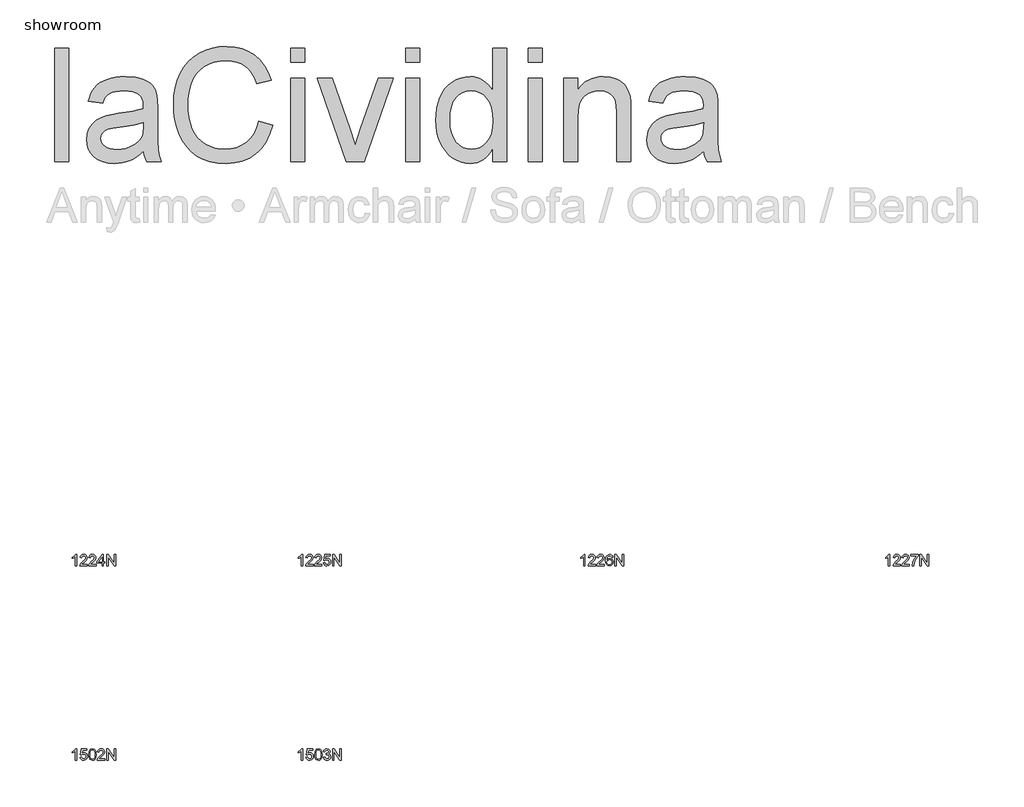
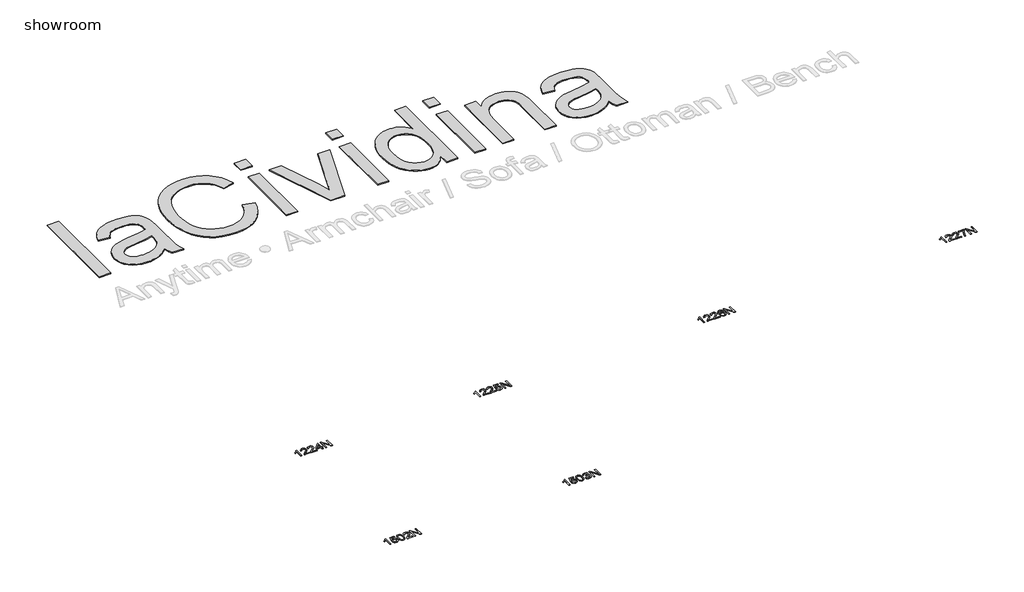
# One storey, part 1 of 2: 7 proxies.
"""IFC4 building model written with IfcOpenShell, lengths in millimetres."""

from ifc_helpers import new_model, si_unit, origin, origin_with_axes, place, context, project, spatial, polyline, outline, extrude, element, save

model = new_model("IFC4")

# Units and contexts
model_context = context("Model", 3, world=origin())
ifc_project = project(units=[si_unit("LENGTHUNIT", "METRE", prefix="MILLI")], contexts=[model_context])

# Site, building, storey
site = spatial("IfcSite", under=ifc_project)
building = spatial("IfcBuilding", under=site)
storey = spatial("IfcBuildingStorey", under=building, Name="showroom", Elevation=0.0)

# Proxies
placement = place(None, origin())
element("IfcBuildingElementProxy", 1, Name="1000mm Arial", ObjectType="1000mm Arial", at=placement, inside=storey, context=model_context, shape_type="SweptSolid", body=[
    extrude(outline(polyline([(-1952.8965336, 4695.1020807), (-1952.8965336, 5699.6651822), (-1827.326146, 5699.6651822), (-1827.326146, 4695.1020807), (-1952.8965336, 4695.1020807)])), origin_with_axes(), (0.0, 0.0, 1.0), 10.0),
    extrude(outline(polyline([(-1168.0816106, 4789.2798714), (-1197.8570596, 4761.3361682), (-1228.0770326, 4737.8377058), (-1258.7415298, 4718.7844841), (-1289.850551, 4704.1765032), (-1321.7566499, 4693.3393128), (-1354.81238, 4685.5984625), (-1389.0177413, 4680.9539523), (-1424.3727339, 4679.4057822), (-1480.283133, 4683.1305874), (-1529.311073, 4694.305003), (-1571.4565541, 4712.929029), (-1606.7195762, 4739.0026654), (-1634.5636447, 4770.8704433), (-1654.4522651, 4806.8768935), (-1666.3854373, 4847.0220163), (-1670.3631613, 4891.3058114), (-1664.3544221, 4943.3611138), (-1656.843498, 4967.5953402), (-1646.3282043, 4990.6339501), (-1618.5224569, 5031.1009696), (-1583.1751285, 5062.7388212), (-1541.6351199, 5086.6511509), (-1495.2513316, 5103.9416046), (-1450.0631599, 5113.5678502), (-1386.6035157, 5122.8262137), (-1258.2126994, 5142.6918415), (-1208.6406006, 5153.9122423), (-1168.8173746, 5165.9910345), (-1168.0816106, 5193.9500661), (-1170.2429173, 5224.3923012), (-1176.7268375, 5249.9907567), (-1187.5333711, 5270.7454326), (-1202.6625181, 5286.6563289), (-1228.8127966, 5302.5365684), (-1260.665246, 5313.8795966), (-1298.2198664, 5320.6854135), (-1341.4766577, 5322.9540191), (-1381.6984225, 5321.4441701), (-1416.27933, 5316.914623), (-1445.2193803, 5309.3653779), (-1468.5185733, 5298.7964348), (-1487.6637655, 5284.3800591), (-1504.1418132, 5265.2885164), (-1517.9527164, 5241.5218066), (-1529.0964752, 5213.0799299), (-1654.6668629, 5228.7762283), (-1645.1095952, 5264.9512912), (-1632.8698547, 5297.4475341), (-1617.9476412, 5326.2649571), (-1600.3429549, 5351.4035601), (-1579.2970391, 5373.3691809), (-1554.0511372, 5392.6676572), (-1524.6052492, 5409.2989891), (-1490.959375, 5423.2631765), (-1453.7956293, 5434.3149647), (-1413.7961265, 5442.2090992), (-1370.9608667, 5446.9455799), (-1325.2898499, 5448.5244068), (-1240.4010795, 5442.9448632), (-1204.5555776, 5435.9704337), (-1173.1093312, 5426.2062324), (-1122.3722727, 5401.0369726), (-1102.8208775, 5386.3140286), (-1087.1475717, 5370.1655418), (-1063.787065, 5331.9977848), (-1048.6425895, 5284.9395463), (-1044.0440646, 5241.5294708), (-1042.5112229, 5175.065457), (-1042.5112229, 5018.8382364), (-1040.9170676, 4882.752555), (-1036.1346017, 4800.6842133), (-1026.6922971, 4746.7588442), (-1011.118626, 4695.1020807), (-1136.6890137, 4695.1020807), (-1156.7998961, 4738.7574108), (-1168.0816106, 4789.2798714)]), holes=[polyline([(-1168.0816106, 5040.4206468), (-1252.4492148, 5019.5126868), (-1370.6619626, 5001.9156646), (-1435.8077326, 4992.2894191), (-1478.6966419, 4981.5595276), (-1506.8089577, 4967.6413254), (-1527.6249472, 4948.450148), (-1540.500817, 4925.4575233), (-1544.7927737, 4900.1349793), (-1542.4551901, 4880.6219052), (-1535.4424396, 4862.7949568), (-1523.7545221, 4846.6541343), (-1507.3914375, 4832.1994375), (-1486.50647, 4820.2892579), (-1461.2529039, 4811.7819868), (-1431.6307391, 4806.6776241), (-1397.6399756, 4804.9761699), (-1362.9364407, 4806.8539009), (-1330.1949431, 4812.487094), (-1299.4154829, 4821.8757491), (-1270.5980599, 4835.0198662), (-1244.6010656, 4850.8311278), (-1222.2828912, 4868.2212162), (-1203.6435368, 4887.1901316), (-1188.6830023, 4907.7378739), (-1179.9917902, 4926.1319736), (-1173.7837815, 4948.450148), (-1168.8173746, 5004.8587206), (-1168.0816106, 5040.4206468)])]), origin_with_axes(), (0.0, 0.0, 1.0), 10.0),
    extrude(outline(polyline([(-147.8222106, 5052.1928707), (-22.2518229, 5019.8192551), (-47.099186, 4941.7286374), (-80.1932372, 4873.4941915), (-121.5339764, 4815.1159174), (-145.296854, 4789.6228448), (-171.1214037, 4766.5938151), (-227.8365446, 4728.4490507), (-290.5604248, 4701.2027904), (-359.2930442, 4684.8550343), (-434.0344029, 4679.4057822), (-510.6075073, 4683.5291262), (-579.6850161, 4695.8991583), (-641.2669293, 4716.5158785), (-695.3532468, 4745.3792867), (-742.6873968, 4782.0601873), (-784.0128076, 4826.1293846), (-819.3294792, 4877.5868787), (-848.6374114, 4936.4326695), (-871.6530288, 5000.1222399), (-888.0927554, 5066.1110728), (-897.9565914, 5134.3991682), (-901.2445368, 5204.986526), (-897.5273958, 5280.7242317), (-886.3759728, 5351.4648737), (-867.7902678, 5417.208452), (-841.7702809, 5477.9549664), (-808.8984918, 5532.7004058), (-769.7573803, 5580.4407589), (-724.3469465, 5621.1760257), (-672.6671904, 5654.9062061), (-616.4732157, 5681.3553887), (-557.5201259, 5700.247662), (-495.8079212, 5711.583026), (-431.3366016, 5715.3614806), (-359.5153062, 5710.4717158), (-293.6567649, 5695.8024212), (-233.7609776, 5671.353597), (-179.8279442, 5637.125243), (-132.746713, 5594.0217359), (-93.4063322, 5542.9474522), (-61.8068016, 5483.902392), (-37.9481214, 5416.8865552), (-163.5185091, 5386.9654863), (-183.2921663, 5436.3459799), (-207.0512119, 5478.5374462), (-234.7956457, 5513.5398852), (-266.5254677, 5541.3532969), (-302.4246191, 5562.5448327), (-342.6770407, 5577.6816439), (-387.2827327, 5586.7637307), (-436.2416949, 5589.7910929), (-492.5736254, 5586.4341697), (-544.0924331, 5576.3634001), (-590.7981181, 5559.5787841), (-632.6906803, 5536.0803216), (-669.2412893, 5506.9256735), (-699.9211149, 5473.1725005), (-724.7301569, 5434.8208025), (-743.6684155, 5391.8705795), (-757.6709239, 5346.2685406), (-767.6727157, 5299.9613944), (-773.6737907, 5252.9491411), (-775.6741491, 5205.2317807), (-773.3059087, 5145.2670154), (-766.2011877, 5089.2263248), (-754.359986, 5037.1097089), (-737.7823036, 4988.9171675), (-716.1998932, 4945.6067268), (-689.3445075, 4908.1364127), (-657.2161466, 4876.5062253), (-619.8148104, 4850.7161646), (-578.9569164, 4830.7049169), (-536.4588817, 4816.4111686), (-492.3207065, 4807.8349196), (-446.5423907, 4804.9761699), (-391.9502355, 4808.8695877), (-341.7266789, 4820.549841), (-295.8717211, 4840.0169299), (-254.3853619, 4867.2708544), (-218.2486201, 4902.1889871), (-188.4425143, 4944.6487007), (-164.9670445, 4994.6499952), (-147.8222106, 5052.1928707)])), origin_with_axes(), (0.0, 0.0, 1.0), 10.0),
    extrude(outline(polyline([(134.7111617, 4695.1020807), (134.7111617, 5432.8281083), (260.2815493, 5432.8281083), (260.2815493, 4695.1020807), (134.7111617, 4695.1020807)])), origin_with_axes(), (0.0, 0.0, 1.0), 10.0),
    extrude(outline(polyline([(134.7111617, 5574.0947945), (134.7111617, 5699.6651822), (260.2815493, 5699.6651822), (260.2815493, 5574.0947945), (134.7111617, 5574.0947945)])), origin_with_axes(), (0.0, 0.0, 1.0), 10.0),
    extrude(outline(polyline([(629.6350725, 4695.1020807), (370.1556386, 5432.8281083), (503.0836662, 5432.8281083), (660.2919054, 4990.8792048), (707.6260555, 4842.2548787), (753.9791869, 4982.5405462), (912.1684448, 5432.8281083), (1045.0964724, 5432.8281083), (788.8053491, 4695.1020807), (629.6350725, 4695.1020807)])), origin_with_axes(), (0.0, 0.0, 1.0), 10.0),
    extrude(outline(polyline([(1154.9705616, 4695.1020807), (1154.9705616, 5432.8281083), (1280.5409493, 5432.8281083), (1280.5409493, 4695.1020807), (1154.9705616, 4695.1020807)])), origin_with_axes(), (0.0, 0.0, 1.0), 10.0),
    extrude(outline(polyline([(1154.9705616, 5574.0947945), (1154.9705616, 5699.6651822), (1280.5409493, 5699.6651822), (1280.5409493, 5574.0947945), (1154.9705616, 5574.0947945)])), origin_with_axes(), (0.0, 0.0, 1.0), 10.0),
    extrude(outline(polyline([(1924.0891862, 4695.1020807), (1924.0891862, 4813.5600831), (1906.2967268, 4782.1176688), (1886.5192374, 4754.8675765), (1864.7567182, 4731.809806), (1841.009169, 4712.9443574), (1815.2765898, 4698.2712308), (1787.5589807, 4687.790426), (1757.8563417, 4681.5019432), (1726.1686728, 4679.4057822), (1684.7206347, 4682.4408087), (1644.9893792, 4691.5458881), (1606.9749064, 4706.7210204), (1570.6772162, 4727.9662056), (1537.2306114, 4754.6453144), (1507.769395, 4786.1222176), (1482.2935668, 4822.3969152), (1460.8031269, 4863.4694071), (1443.7425994, 4908.5579442), (1431.5565083, 4956.8807771), (1424.2448537, 5008.4379059), (1421.8076355, 5063.2293305), (1424.0532485, 5117.0167439), (1430.7900875, 5168.2596401), (1442.0181526, 5216.9580192), (1457.7374436, 5263.1118812), (1477.9402965, 5305.3723254), (1502.6190471, 5342.3904512), (1531.7736952, 5374.1662585), (1565.4042409, 5400.6997474), (1602.322732, 5421.6230359), (1641.3412161, 5436.568242), (1682.4596932, 5445.5353656), (1725.6781635, 5448.5244068), (1757.2853582, 5446.3860927), (1787.1144567, 5439.9711504), (1815.1654588, 5429.2795799), (1841.4383646, 5414.3113812), (1865.6419342, 5395.9249457), (1887.4849277, 5374.9786646), (1906.967345, 5351.4725379), (1924.0891862, 5325.4065657), (1924.0891862, 5699.6651822), (2049.6595739, 5699.6651822), (2049.6595739, 4695.1020807), (1924.0891862, 4695.1020807)]), holes=[polyline([(1547.3780231, 5063.7198398), (1550.9188873, 5002.8277054), (1561.54148, 4950.1362738), (1579.245801, 4905.645545), (1604.0318504, 4869.3555191), (1633.6310226, 4841.1895538), (1665.7747119, 4821.0710072), (1700.4629184, 4808.9998792), (1737.695642, 4804.9761699), (1775.1046424, 4808.8159382), (1809.5859152, 4820.3352432), (1841.1394605, 4839.5340848), (1869.7652782, 4866.4124631), (1893.531988, 4901.1849758), (1910.5082092, 4944.0662209), (1920.693942, 4995.0561983), (1924.0891862, 5054.154908), (1920.6326283, 5118.9481244), (1910.2629545, 5174.5136341), (1892.980165, 5220.851437), (1868.7842596, 5257.9615333), (1839.5299768, 5286.3957458), (1807.0720549, 5306.7058977), (1771.410494, 5318.8919887), (1732.545294, 5322.9540191), (1694.5768065, 5319.0529371), (1659.8886, 5307.3496911), (1628.4806747, 5287.8442812), (1600.3530304, 5260.5367073), (1577.1764647, 5224.8291611), (1560.621775, 5180.1238345), (1550.6889611, 5126.4207274), (1547.3780231, 5063.7198398)])]), origin_with_axes(), (0.0, 0.0, 1.0), 10.0),
    extrude(outline(polyline([(2238.0151554, 4695.1020807), (2238.0151554, 5432.8281083), (2363.5855431, 5432.8281083), (2363.5855431, 4695.1020807), (2238.0151554, 4695.1020807)])), origin_with_axes(), (0.0, 0.0, 1.0), 10.0),
    extrude(outline(polyline([(2238.0151554, 5574.0947945), (2238.0151554, 5699.6651822), (2363.5855431, 5699.6651822), (2363.5855431, 5574.0947945), (2238.0151554, 5574.0947945)])), origin_with_axes(), (0.0, 0.0, 1.0), 10.0),
    extrude(outline(polyline([(2551.9411246, 4695.1020807), (2551.9411246, 5432.8281083), (2677.5115123, 5432.8281083), (2677.5115123, 5329.8211497), (2698.2278672, 5357.6422256), (2721.1361856, 5381.7538247), (2746.2364675, 5402.155947), (2773.5287131, 5418.8485925), (2803.0129221, 5431.8317613), (2834.6890948, 5441.1054532), (2868.5572309, 5446.6696684), (2904.6173307, 5448.5244068), (2966.5134764, 5442.5463244), (2995.5071761, 5435.0737213), (3023.1979605, 5424.6120771), (3048.5358329, 5411.7208789), (3070.4707968, 5396.9596138), (3089.0028523, 5380.3282819), (3104.1319994, 5361.8268833), (3126.9713399, 5319.305856), (3141.7785902, 5269.4885025), (3146.7449972, 5221.8477841), (3148.4004661, 5148.0874441), (3148.4004661, 4695.1020807), (3022.8300785, 4695.1020807), (3022.8300785, 5131.1648723), (3019.2125722, 5196.0960444), (3008.3600533, 5242.2652348), (2999.7378191, 5259.7319654), (2988.3411414, 5275.3439576), (2974.1700204, 5289.1012113), (2957.224456, 5301.0037267), (2917.3399163, 5317.466446), (2871.0174418, 5322.9540191), (2832.8880058, 5319.8730074), (2797.4716996, 5310.6299723), (2764.7685231, 5295.2249137), (2734.7784762, 5273.6578318), (2709.7241795, 5243.4761797), (2691.8282533, 5202.227411), (2681.0906976, 5149.9115256), (2677.5115123, 5086.5285235), (2677.5115123, 4695.1020807), (2551.9411246, 4695.1020807)])), origin_with_axes(), (0.0, 0.0, 1.0), 10.0),
    extrude(outline(polyline([(3791.948703, 4789.2798714), (3762.1732541, 4761.3361682), (3731.953281, 4737.8377058), (3701.2887839, 4718.7844841), (3670.1797626, 4704.1765032), (3638.2736638, 4693.3393128), (3605.2179337, 4685.5984625), (3571.0125723, 4680.9539523), (3535.6575797, 4679.4057822), (3479.7471807, 4683.1305874), (3430.7192406, 4694.305003), (3388.5737595, 4712.929029), (3353.3107375, 4739.0026654), (3325.466669, 4770.8704433), (3305.5780486, 4806.8768935), (3293.6448764, 4847.0220163), (3289.6671523, 4891.3058114), (3295.6758915, 4943.3611138), (3303.1868156, 4967.5953402), (3313.7021093, 4990.6339501), (3341.5078568, 5031.1009696), (3376.8551852, 5062.7388212), (3418.3951938, 5086.6511509), (3464.778982, 5103.9416046), (3509.9671537, 5113.5678502), (3573.4267979, 5122.8262137), (3701.8176142, 5142.6918415), (3751.3897131, 5153.9122423), (3791.2129391, 5165.9910345), (3791.948703, 5193.9500661), (3789.7873963, 5224.3923012), (3783.3034762, 5249.9907567), (3772.4969425, 5270.7454326), (3757.3677955, 5286.6563289), (3731.217517, 5302.5365684), (3699.3650676, 5313.8795966), (3661.8104472, 5320.6854135), (3618.553656, 5322.9540191), (3578.3318912, 5321.4441701), (3543.7509836, 5316.914623), (3514.8109333, 5309.3653779), (3491.5117403, 5298.7964348), (3472.3665481, 5284.3800591), (3455.8885004, 5265.2885164), (3442.0775972, 5241.5218066), (3430.9338384, 5213.0799299), (3305.3634508, 5228.7762283), (3314.9207184, 5264.9512912), (3327.160459, 5297.4475341), (3342.0826724, 5326.2649571), (3359.6873587, 5351.4035601), (3380.7332745, 5373.3691809), (3405.9791764, 5392.6676572), (3435.4250645, 5409.2989891), (3469.0709386, 5423.2631765), (3506.2346843, 5434.3149647), (3546.2341871, 5442.2090992), (3589.0694469, 5446.9455799), (3634.7404638, 5448.5244068), (3719.6292342, 5442.9448632), (3755.4747361, 5435.9704337), (3786.9209824, 5426.2062324), (3837.6580409, 5401.0369726), (3857.2094361, 5386.3140286), (3872.882742, 5370.1655418), (3896.2432487, 5331.9977848), (3911.3877241, 5284.9395463), (3915.9862491, 5241.5294708), (3917.5190907, 5175.065457), (3917.5190907, 5018.8382364), (3919.113246, 4882.752555), (3923.895712, 4800.6842133), (3933.3380165, 4746.7588442), (3948.9116877, 4695.1020807), (3823.3413, 4695.1020807), (3803.2304176, 4738.7574108), (3791.948703, 4789.2798714)]), holes=[polyline([(3791.948703, 5040.4206468), (3707.5810988, 5019.5126868), (3589.368351, 5001.9156646), (3524.2225811, 4992.2894191), (3481.3336718, 4981.5595276), (3453.221356, 4967.6413254), (3432.4053664, 4948.450148), (3419.5294966, 4925.4575233), (3415.23754, 4900.1349793), (3417.5751235, 4880.6219052), (3424.587874, 4862.7949568), (3436.2757916, 4846.6541343), (3452.6388762, 4832.1994375), (3473.5238436, 4820.2892579), (3498.7774097, 4811.7819868), (3528.3995745, 4806.6776241), (3562.3903381, 4804.9761699), (3597.0938729, 4806.8539009), (3629.8353705, 4812.487094), (3660.6148308, 4821.8757491), (3689.4322537, 4835.0198662), (3715.429248, 4850.8311278), (3737.7474224, 4868.2212162), (3756.3867768, 4887.1901316), (3771.3473113, 4907.7378739), (3780.0385234, 4926.1319736), (3786.2465321, 4948.450148), (3791.2129391, 5004.8587206), (3791.948703, 5040.4206468)])]), origin_with_axes(), (0.0, 0.0, 1.0), 10.0),
])
element("IfcBuildingElementProxy", 2, Name="100mm Arial", ObjectType="100mm Arial", at=placement, inside=storey, context=model_context, shape_type="SweptSolid", body=[
    extrude(outline(polyline([(-1758.3391159, 1115.1020807), (-1770.8961547, 1115.1020807), (-1770.8961547, 1193.3873692), (-1782.7910059, 1184.9138206), (-1796.0102323, 1178.5739876), (-1796.0102323, 1190.4443133), (-1777.6038698, 1202.1920117), (-1766.4325198, 1215.5583908), (-1758.3391159, 1215.5583908), (-1758.3391159, 1115.1020807)])), origin_with_axes(), (0.0, 0.0, 1.0), 2.0),
    extrude(outline(polyline([(-1664.1613252, 1127.6591194), (-1664.1613252, 1115.1020807), (-1730.0857787, 1115.1020807), (-1728.7368781, 1123.7595703), (-1721.109458, 1137.0891613), (-1705.3886341, 1151.6450255), (-1683.7081219, 1172.5652483), (-1678.2879938, 1186.7900188), (-1683.4015535, 1198.3047252), (-1696.75567, 1203.0013521), (-1710.6738721, 1198.4150898), (-1715.9591101, 1185.7354237), (-1728.5161489, 1187.3050536), (-1725.4719254, 1199.4512908), (-1718.8899033, 1208.3233782), (-1709.1134393, 1213.7496377), (-1696.4858898, 1215.5583908), (-1683.7663698, 1213.5473026), (-1674.0082999, 1207.5140379), (-1667.8002913, 1198.500929), (-1665.730955, 1187.5503083), (-1667.9627725, 1175.6431943), (-1675.381726, 1163.3314102), (-1693.3711556, 1146.1267956), (-1707.8166553, 1134.0480034), (-1713.482038, 1127.6591194), (-1664.1613252, 1127.6591194)])), origin_with_axes(), (0.0, 0.0, 1.0), 2.0),
    extrude(outline(polyline([(-1587.2494627, 1127.6591194), (-1587.2494627, 1115.1020807), (-1653.1739163, 1115.1020807), (-1651.8250156, 1123.7595703), (-1644.1975956, 1137.0891613), (-1628.4767717, 1151.6450255), (-1606.7962594, 1172.5652483), (-1601.3761313, 1186.7900188), (-1606.4896911, 1198.3047252), (-1619.8438075, 1203.0013521), (-1633.7620096, 1198.4150898), (-1639.0472476, 1185.7354237), (-1651.6042864, 1187.3050536), (-1648.5600629, 1199.4512908), (-1641.9780409, 1208.3233782), (-1632.2015769, 1213.7496377), (-1619.5740274, 1215.5583908), (-1606.8545074, 1213.5473026), (-1597.0964375, 1207.5140379), (-1590.8884288, 1198.500929), (-1588.8190926, 1187.5503083), (-1591.05091, 1175.6431943), (-1598.4698636, 1163.3314102), (-1616.4592931, 1146.1267956), (-1630.9047928, 1134.0480034), (-1636.5701755, 1127.6591194), (-1587.2494627, 1127.6591194)])), origin_with_axes(), (0.0, 0.0, 1.0), 2.0),
    extrude(outline(polyline([(-1533.882048, 1115.1020807), (-1533.882048, 1138.6465284), (-1579.4013135, 1138.6465284), (-1579.4013135, 1151.2035671), (-1530.7427883, 1213.988761), (-1521.3250092, 1213.988761), (-1521.3250092, 1151.2035671), (-1508.7679704, 1151.2035671), (-1508.7679704, 1138.6465284), (-1521.3250092, 1138.6465284), (-1521.3250092, 1115.1020807), (-1533.882048, 1115.1020807)]), holes=[polyline([(-1533.882048, 1151.2035671), (-1533.882048, 1190.0028549), (-1563.9502697, 1151.2035671), (-1533.882048, 1151.2035671)])]), origin_with_axes(), (0.0, 0.0, 1.0), 2.0),
    extrude(outline(polyline([(-1493.071672, 1115.1020807), (-1493.071672, 1215.5583908), (-1479.6317164, 1215.5583908), (-1427.1472184, 1135.9732525), (-1427.1472184, 1215.5583908), (-1414.5901797, 1215.5583908), (-1414.5901797, 1115.1020807), (-1428.0301352, 1115.1020807), (-1480.5146332, 1194.7117444), (-1480.5146332, 1115.1020807), (-1493.071672, 1115.1020807)])), origin_with_axes(), (0.0, 0.0, 1.0), 2.0),
])
element("IfcBuildingElementProxy", 3, Name="100mm Arial", ObjectType="100mm Arial", at=placement, inside=storey, context=model_context, shape_type="SweptSolid", body=[
    extrude(outline(polyline([(241.6608841, 1115.1020807), (229.1038453, 1115.1020807), (229.1038453, 1193.3873692), (217.2089941, 1184.9138206), (203.9897677, 1178.5739876), (203.9897677, 1190.4443133), (222.3961302, 1202.1920117), (233.5674802, 1215.5583908), (241.6608841, 1215.5583908), (241.6608841, 1115.1020807)])), origin_with_axes(), (0.0, 0.0, 1.0), 2.0),
    extrude(outline(polyline([(335.8386748, 1127.6591194), (335.8386748, 1115.1020807), (269.9142213, 1115.1020807), (271.2631219, 1123.7595703), (278.890542, 1137.0891613), (294.6113659, 1151.6450255), (316.2918781, 1172.5652483), (321.7120062, 1186.7900188), (316.5984465, 1198.3047252), (303.24433, 1203.0013521), (289.3261279, 1198.4150898), (284.0408899, 1185.7354237), (271.4838511, 1187.3050536), (274.5280746, 1199.4512908), (281.1100967, 1208.3233782), (290.8865607, 1213.7496377), (303.5141102, 1215.5583908), (316.2336302, 1213.5473026), (325.9917001, 1207.5140379), (332.1997087, 1198.500929), (334.269045, 1187.5503083), (332.0372275, 1175.6431943), (324.618274, 1163.3314102), (306.6288444, 1146.1267956), (292.1833447, 1134.0480034), (286.517962, 1127.6591194), (335.8386748, 1127.6591194)])), origin_with_axes(), (0.0, 0.0, 1.0), 2.0),
    extrude(outline(polyline([(412.7505373, 1127.6591194), (412.7505373, 1115.1020807), (346.8260837, 1115.1020807), (348.1749844, 1123.7595703), (355.8024044, 1137.0891613), (371.5232283, 1151.6450255), (393.2037406, 1172.5652483), (398.6238687, 1186.7900188), (393.5103089, 1198.3047252), (380.1561925, 1203.0013521), (366.2379904, 1198.4150898), (360.9527524, 1185.7354237), (348.3957136, 1187.3050536), (351.4399371, 1199.4512908), (358.0219591, 1208.3233782), (367.7984231, 1213.7496377), (380.4259726, 1215.5583908), (393.1454926, 1213.5473026), (402.9035625, 1207.5140379), (409.1115712, 1198.500929), (411.1809074, 1187.5503083), (408.94909, 1175.6431943), (401.5301364, 1163.3314102), (383.5407069, 1146.1267956), (369.0952072, 1134.0480034), (363.4298245, 1127.6591194), (412.7505373, 1127.6591194)])), origin_with_axes(), (0.0, 0.0, 1.0), 2.0),
    extrude(outline(polyline([(425.307576, 1141.7857881), (437.8646148, 1143.3554179), (444.1921851, 1130.4182344), (457.3133096, 1126.0894896), (466.3141558, 1127.5947401), (473.058659, 1132.1104916), (477.2709079, 1139.1155779), (478.6749908, 1148.0888329), (473.4142783, 1163.0003164), (466.8077308, 1167.1022007), (457.5095134, 1168.4694954), (446.4853162, 1166.2867289), (439.4342447, 1160.6213462), (426.8772059, 1162.1909761), (437.8646148, 1213.988761), (486.52314, 1213.988761), (486.52314, 1201.4317222), (448.0181579, 1201.4317222), (442.6470807, 1173.7669962), (451.6172701, 1179.2116497), (461.016655, 1181.0265342), (472.749025, 1178.7763227), (482.4887008, 1172.0256881), (489.0461974, 1161.7372549), (491.2320296, 1148.8736478), (489.2638609, 1136.3166091), (483.3593549, 1125.5744548), (472.0531149, 1116.5429518), (457.2642587, 1113.5324508), (444.9310148, 1115.466897), (435.1054998, 1121.2702355), (428.3701937, 1130.2680159), (425.307576, 1141.7857881)])), origin_with_axes(), (0.0, 0.0, 1.0), 2.0),
    extrude(outline(polyline([(506.928328, 1115.1020807), (506.928328, 1215.5583908), (520.3682836, 1215.5583908), (572.8527816, 1135.9732525), (572.8527816, 1215.5583908), (585.4098203, 1215.5583908), (585.4098203, 1115.1020807), (571.9698648, 1115.1020807), (519.4853668, 1194.7117444), (519.4853668, 1115.1020807), (506.928328, 1115.1020807)])), origin_with_axes(), (0.0, 0.0, 1.0), 2.0),
])
element("IfcBuildingElementProxy", 4, Name="100mm Arial", ObjectType="100mm Arial", at=placement, inside=storey, context=model_context, shape_type="SweptSolid", body=[
    extrude(outline(polyline([(2741.6608841, 1115.1020807), (2729.1038453, 1115.1020807), (2729.1038453, 1193.3873692), (2717.2089941, 1184.9138206), (2703.9897677, 1178.5739876), (2703.9897677, 1190.4443133), (2722.3961302, 1202.1920117), (2733.5674802, 1215.5583908), (2741.6608841, 1215.5583908), (2741.6608841, 1115.1020807)])), origin_with_axes(), (0.0, 0.0, 1.0), 2.0),
    extrude(outline(polyline([(2835.8386748, 1127.6591194), (2835.8386748, 1115.1020807), (2769.9142213, 1115.1020807), (2771.2631219, 1123.7595703), (2778.890542, 1137.0891613), (2794.6113659, 1151.6450255), (2816.2918781, 1172.5652483), (2821.7120062, 1186.7900188), (2816.5984465, 1198.3047252), (2803.24433, 1203.0013521), (2789.3261279, 1198.4150898), (2784.0408899, 1185.7354237), (2771.4838511, 1187.3050536), (2774.5280746, 1199.4512908), (2781.1100967, 1208.3233782), (2790.8865607, 1213.7496377), (2803.5141102, 1215.5583908), (2816.2336302, 1213.5473026), (2825.9917001, 1207.5140379), (2832.1997087, 1198.500929), (2834.269045, 1187.5503083), (2832.0372275, 1175.6431943), (2824.618274, 1163.3314102), (2806.6288444, 1146.1267956), (2792.1833447, 1134.0480034), (2786.517962, 1127.6591194), (2835.8386748, 1127.6591194)])), origin_with_axes(), (0.0, 0.0, 1.0), 2.0),
    extrude(outline(polyline([(2912.7505373, 1127.6591194), (2912.7505373, 1115.1020807), (2846.8260837, 1115.1020807), (2848.1749844, 1123.7595703), (2855.8024044, 1137.0891613), (2871.5232283, 1151.6450255), (2893.2037406, 1172.5652483), (2898.6238687, 1186.7900188), (2893.5103089, 1198.3047252), (2880.1561925, 1203.0013521), (2866.2379904, 1198.4150898), (2860.9527524, 1185.7354237), (2848.3957136, 1187.3050536), (2851.4399371, 1199.4512908), (2858.0219591, 1208.3233782), (2867.7984231, 1213.7496377), (2880.4259726, 1215.5583908), (2893.1454926, 1213.5473026), (2902.9035625, 1207.5140379), (2909.1115712, 1198.500929), (2911.1809074, 1187.5503083), (2908.94909, 1175.6431943), (2901.5301364, 1163.3314102), (2883.5407069, 1146.1267956), (2869.0952072, 1134.0480034), (2863.4298245, 1127.6591194), (2912.7505373, 1127.6591194)])), origin_with_axes(), (0.0, 0.0, 1.0), 2.0),
    extrude(outline(polyline([(2989.6623997, 1188.8746834), (2977.105361, 1187.3050536), (2972.3474205, 1197.7774277), (2959.7658563, 1203.0013521), (2948.4350908, 1199.9601942), (2939.8634403, 1188.5435896), (2936.294985, 1166.1641016), (2947.368233, 1176.1827546), (2961.0902314, 1179.4569044), (2972.690777, 1177.2189556), (2982.4273872, 1170.5051091), (2989.030869, 1160.2473328), (2991.2320296, 1147.3775944), (2987.0872258, 1130.0503524), (2975.6828839, 1117.7876192), (2959.226296, 1113.5324508), (2944.9800657, 1116.3528795), (2933.6339719, 1124.8141653), (2926.2119526, 1139.7501743), (2923.7379462, 1161.9947723), (2926.4847984, 1187.0046166), (2934.7253551, 1204.104998), (2945.9764128, 1212.6950426), (2960.5506712, 1215.5583908), (2971.5687369, 1213.7864259), (2980.3917735, 1208.470531), (2986.572191, 1200.0276393), (2989.6623997, 1188.8746834)]), holes=[polyline([(2936.294985, 1147.5737981), (2939.2012527, 1136.6967538), (2946.9267746, 1128.7995536), (2958.2452773, 1126.0894896), (2966.5318193, 1127.4935725), (2973.0463963, 1131.7058214), (2977.2678422, 1138.3276973), (2978.6749908, 1146.9606615), (2977.2862363, 1155.2472034), (2973.1199727, 1161.5655767), (2966.4950311, 1165.5662934), (2957.7302426, 1166.8998656), (2942.5367162, 1161.5655767), (2937.8554178, 1155.4004876), (2936.294985, 1147.5737981)])]), origin_with_axes(), (0.0, 0.0, 1.0), 2.0),
    extrude(outline(polyline([(3006.928328, 1115.1020807), (3006.928328, 1215.5583908), (3020.3682836, 1215.5583908), (3072.8527816, 1135.9732525), (3072.8527816, 1215.5583908), (3085.4098203, 1215.5583908), (3085.4098203, 1115.1020807), (3071.9698648, 1115.1020807), (3019.4853668, 1194.7117444), (3019.4853668, 1115.1020807), (3006.928328, 1115.1020807)])), origin_with_axes(), (0.0, 0.0, 1.0), 2.0),
])
element("IfcBuildingElementProxy", 5, Name="100mm Arial", ObjectType="100mm Arial", at=placement, inside=storey, context=model_context, shape_type="SweptSolid", body=[
    extrude(outline(polyline([(5441.6608841, 1115.1020807), (5429.1038453, 1115.1020807), (5429.1038453, 1193.3873692), (5417.2089941, 1184.9138206), (5403.9897677, 1178.5739876), (5403.9897677, 1190.4443133), (5422.3961302, 1202.1920117), (5433.5674802, 1215.5583908), (5441.6608841, 1215.5583908), (5441.6608841, 1115.1020807)])), origin_with_axes(), (0.0, 0.0, 1.0), 2.0),
    extrude(outline(polyline([(5535.8386748, 1127.6591194), (5535.8386748, 1115.1020807), (5469.9142213, 1115.1020807), (5471.2631219, 1123.7595703), (5478.890542, 1137.0891613), (5494.6113659, 1151.6450255), (5516.2918781, 1172.5652483), (5521.7120062, 1186.7900188), (5516.5984465, 1198.3047252), (5503.24433, 1203.0013521), (5489.3261279, 1198.4150898), (5484.0408899, 1185.7354237), (5471.4838511, 1187.3050536), (5474.5280746, 1199.4512908), (5481.1100967, 1208.3233782), (5490.8865607, 1213.7496377), (5503.5141102, 1215.5583908), (5516.2336302, 1213.5473026), (5525.9917001, 1207.5140379), (5532.1997087, 1198.500929), (5534.269045, 1187.5503083), (5532.0372275, 1175.6431943), (5524.618274, 1163.3314102), (5506.6288444, 1146.1267956), (5492.1833447, 1134.0480034), (5486.517962, 1127.6591194), (5535.8386748, 1127.6591194)])), origin_with_axes(), (0.0, 0.0, 1.0), 2.0),
    extrude(outline(polyline([(5612.7505373, 1127.6591194), (5612.7505373, 1115.1020807), (5546.8260837, 1115.1020807), (5548.1749844, 1123.7595703), (5555.8024044, 1137.0891613), (5571.5232283, 1151.6450255), (5593.2037406, 1172.5652483), (5598.6238687, 1186.7900188), (5593.5103089, 1198.3047252), (5580.1561925, 1203.0013521), (5566.2379904, 1198.4150898), (5560.9527524, 1185.7354237), (5548.3957136, 1187.3050536), (5551.4399371, 1199.4512908), (5558.0219591, 1208.3233782), (5567.7984231, 1213.7496377), (5580.4259726, 1215.5583908), (5593.1454926, 1213.5473026), (5602.9035625, 1207.5140379), (5609.1115712, 1198.500929), (5611.1809074, 1187.5503083), (5608.94909, 1175.6431943), (5601.5301364, 1163.3314102), (5583.5407069, 1146.1267956), (5569.0952072, 1134.0480034), (5563.4298245, 1127.6591194), (5612.7505373, 1127.6591194)])), origin_with_axes(), (0.0, 0.0, 1.0), 2.0),
    extrude(outline(polyline([(5625.307576, 1201.4317222), (5625.307576, 1213.988761), (5691.2320296, 1213.988761), (5691.2320296, 1203.8352179), (5672.5313615, 1176.8204167), (5658.2207519, 1142.3989247), (5653.5609133, 1115.1020807), (5641.0038745, 1115.1020807), (5645.9948069, 1143.4289943), (5659.6922799, 1175.4469906), (5678.6749908, 1201.4317222), (5625.307576, 1201.4317222)])), origin_with_axes(), (0.0, 0.0, 1.0), 2.0),
    extrude(outline(polyline([(5706.928328, 1115.1020807), (5706.928328, 1215.5583908), (5720.3682836, 1215.5583908), (5772.8527816, 1135.9732525), (5772.8527816, 1215.5583908), (5785.4098203, 1215.5583908), (5785.4098203, 1115.1020807), (5771.9698648, 1115.1020807), (5719.4853668, 1194.7117444), (5719.4853668, 1115.1020807), (5706.928328, 1115.1020807)])), origin_with_axes(), (0.0, 0.0, 1.0), 2.0),
])
element("IfcBuildingElementProxy", 6, Name="100mm Arial", ObjectType="100mm Arial", at=placement, inside=storey, context=model_context, shape_type="SweptSolid", body=[
    extrude(outline(polyline([(-1758.3391159, -607.118917), (-1770.8961547, -607.118917), (-1770.8961547, -528.8336284), (-1782.7910059, -537.307177), (-1796.0102323, -543.6470101), (-1796.0102323, -531.7766843), (-1777.6038698, -520.028986), (-1766.4325198, -506.6626068), (-1758.3391159, -506.6626068), (-1758.3391159, -607.118917)])), origin_with_axes(), (0.0, 0.0, 1.0), 2.0),
    extrude(outline(polyline([(-1728.5161489, -580.4352096), (-1715.9591101, -578.8655797), (-1709.6315398, -591.8027632), (-1696.5104153, -596.131508), (-1687.5095691, -594.6262575), (-1680.7650659, -590.110506), (-1676.5528171, -583.1054197), (-1675.1487341, -574.1321647), (-1680.4094466, -559.2206812), (-1687.0159941, -555.1187969), (-1696.3142116, -553.7515022), (-1707.3384087, -555.9342687), (-1714.3894803, -561.5996514), (-1726.946519, -560.0300216), (-1715.9591101, -508.2322366), (-1667.3005849, -508.2322366), (-1667.3005849, -520.7892754), (-1705.805567, -520.7892754), (-1711.1766442, -548.4540015), (-1702.2064549, -543.0093479), (-1692.8070699, -541.1944634), (-1681.0746999, -543.444675), (-1671.3350241, -550.1953096), (-1664.7775275, -560.4837427), (-1662.5916953, -573.3473498), (-1664.559864, -585.9043886), (-1670.46437, -596.6465428), (-1681.77061, -605.6780458), (-1696.5594662, -608.6885468), (-1708.8927101, -606.7541006), (-1718.7182251, -600.9507622), (-1725.4535313, -591.9529817), (-1728.5161489, -580.4352096)])), origin_with_axes(), (0.0, 0.0, 1.0), 2.0),
    extrude(outline(polyline([(-1651.6042864, -557.7001023), (-1647.9132037, -528.7968402), (-1636.9503203, -512.1317858), (-1618.6420596, -506.6626068), (-1603.9758308, -509.8999684), (-1593.8468132, -519.2319083), (-1587.9607012, -534.0943409), (-1585.6798329, -557.7001023), (-1589.3341274, -586.480737), (-1600.2602226, -603.1825796), (-1608.4915823, -607.312055), (-1618.6420596, -608.6885468), (-1631.6896077, -606.2973138), (-1641.5978961, -599.1236149), (-1649.1026888, -582.1335981), (-1651.6042864, -557.7001023)]), holes=[polyline([(-1639.0472476, -557.6755768), (-1637.5757197, -577.4277743), (-1633.1611357, -588.8597073), (-1626.5883107, -594.3135578), (-1618.6420596, -596.131508), (-1610.6958086, -594.3074265), (-1604.1229836, -588.8351818), (-1599.7083996, -577.3971174), (-1598.2368716, -557.6755768), (-1599.6593487, -538.3679034), (-1603.9267798, -526.8470656), (-1610.4873421, -521.1265006), (-1618.7892124, -519.2196456), (-1626.6496244, -520.89964), (-1632.964932, -525.9396234), (-1637.5266687, -538.1778311), (-1639.0472476, -557.6755768)])]), origin_with_axes(), (0.0, 0.0, 1.0), 2.0),
    extrude(outline(polyline([(-1510.3376003, -594.5618782), (-1510.3376003, -607.118917), (-1576.2620538, -607.118917), (-1574.9131532, -598.4614273), (-1567.2857331, -585.1318364), (-1551.5649092, -570.5759721), (-1529.8843969, -549.6557493), (-1524.4642689, -535.4309788), (-1529.5778286, -523.9162724), (-1542.931945, -519.2196456), (-1556.8501472, -523.8059078), (-1562.1353852, -536.4855739), (-1574.692424, -534.915944), (-1571.6482004, -522.7697068), (-1565.0661784, -513.8976194), (-1555.2897144, -508.4713599), (-1542.6621649, -506.6626068), (-1529.9426449, -508.673695), (-1520.184575, -514.7069598), (-1513.9765663, -523.7200686), (-1511.9072301, -534.6706894), (-1514.1390476, -546.5778033), (-1521.5580011, -558.8895874), (-1539.5474307, -576.094202), (-1553.9929304, -588.1729942), (-1559.6583131, -594.5618782), (-1510.3376003, -594.5618782)])), origin_with_axes(), (0.0, 0.0, 1.0), 2.0),
    extrude(outline(polyline([(-1493.071672, -607.118917), (-1493.071672, -506.6626068), (-1479.6317164, -506.6626068), (-1427.1472184, -586.2477451), (-1427.1472184, -506.6626068), (-1414.5901797, -506.6626068), (-1414.5901797, -607.118917), (-1428.0301352, -607.118917), (-1480.5146332, -527.5092532), (-1480.5146332, -607.118917), (-1493.071672, -607.118917)])), origin_with_axes(), (0.0, 0.0, 1.0), 2.0),
])
element("IfcBuildingElementProxy", 7, Name="100mm Arial", ObjectType="100mm Arial", at=placement, inside=storey, context=model_context, shape_type="SweptSolid", body=[
    extrude(outline(polyline([(241.6608841, -607.118917), (229.1038453, -607.118917), (229.1038453, -528.8336284), (217.2089941, -537.307177), (203.9897677, -543.6470101), (203.9897677, -531.7766843), (222.3961302, -520.028986), (233.5674802, -506.6626068), (241.6608841, -506.6626068), (241.6608841, -607.118917)])), origin_with_axes(), (0.0, 0.0, 1.0), 2.0),
    extrude(outline(polyline([(271.4838511, -580.4352096), (284.0408899, -578.8655797), (290.3684602, -591.8027632), (303.4895847, -596.131508), (312.4904309, -594.6262575), (319.2349341, -590.110506), (323.4471829, -583.1054197), (324.8512659, -574.1321647), (319.5905534, -559.2206812), (312.9840059, -555.1187969), (303.6857884, -553.7515022), (292.6615913, -555.9342687), (285.6105197, -561.5996514), (273.053481, -560.0300216), (284.0408899, -508.2322366), (332.6994151, -508.2322366), (332.6994151, -520.7892754), (294.194433, -520.7892754), (288.8233558, -548.4540015), (297.7935451, -543.0093479), (307.1929301, -541.1944634), (318.9253001, -543.444675), (328.6649759, -550.1953096), (335.2224725, -560.4837427), (337.4083047, -573.3473498), (335.440136, -585.9043886), (329.53563, -596.6465428), (318.22939, -605.6780458), (303.4405338, -608.6885468), (291.1072899, -606.7541006), (281.2817749, -600.9507622), (274.5464687, -591.9529817), (271.4838511, -580.4352096)])), origin_with_axes(), (0.0, 0.0, 1.0), 2.0),
    extrude(outline(polyline([(348.3957136, -557.7001023), (352.0867963, -528.7968402), (363.0496797, -512.1317858), (381.3579404, -506.6626068), (396.0241692, -509.8999684), (406.1531868, -519.2319083), (412.0392988, -534.0943409), (414.3201671, -557.7001023), (410.6658726, -586.480737), (399.7397774, -603.1825796), (391.5084177, -607.312055), (381.3579404, -608.6885468), (368.3103923, -606.2973138), (358.4021039, -599.1236149), (350.8973112, -582.1335981), (348.3957136, -557.7001023)]), holes=[polyline([(360.9527524, -557.6755768), (362.4242803, -577.4277743), (366.8388643, -588.8597073), (373.4116893, -594.3135578), (381.3579404, -596.131508), (389.3041914, -594.3074265), (395.8770164, -588.8351818), (400.2916004, -577.3971174), (401.7631284, -557.6755768), (400.3406513, -538.3679034), (396.0732202, -526.8470656), (389.5126579, -521.1265006), (381.2107876, -519.2196456), (373.3503756, -520.89964), (367.035068, -525.9396234), (362.4733313, -538.1778311), (360.9527524, -557.6755768)])]), origin_with_axes(), (0.0, 0.0, 1.0), 2.0),
    extrude(outline(polyline([(425.307576, -580.4352096), (437.8646148, -578.8655797), (444.7930591, -592.0848061), (457.754768, -596.131508), (466.3632067, -594.7396878), (473.0096081, -590.5642272), (478.6749908, -576.7809151), (473.058659, -563.7946807), (458.7848376, -558.6565955), (449.9801952, -560.0300216), (451.3781468, -547.4729828), (453.389235, -547.6201356), (467.638531, -544.014892), (472.3842087, -539.4408926), (473.9661013, -532.9293813), (469.3798391, -523.106932), (457.5585643, -519.2196456), (445.5901367, -523.1437202), (439.4342447, -534.915944), (426.8772059, -533.3463142), (430.5744199, -522.070731), (437.1533763, -513.6523647), (446.1542224, -508.4100463), (457.1171059, -506.6626068), (472.2615814, -510.1084348), (482.8565828, -519.5262139), (486.52314, -532.1936173), (483.0405238, -543.7696374), (472.739828, -552.0837705), (486.4250382, -560.6676837), (491.2320296, -577.0016443), (488.8285339, -589.239852), (481.6180468, -599.4669715), (470.7348711, -606.383153), (457.3133096, -608.6885468), (445.1732038, -606.7203781), (435.2894408, -600.8158721), (428.4161789, -591.7843691), (425.307576, -580.4352096)])), origin_with_axes(), (0.0, 0.0, 1.0), 2.0),
    extrude(outline(polyline([(506.928328, -607.118917), (506.928328, -506.6626068), (520.3682836, -506.6626068), (572.8527816, -586.2477451), (572.8527816, -506.6626068), (585.4098203, -506.6626068), (585.4098203, -607.118917), (571.9698648, -607.118917), (519.4853668, -527.5092532), (519.4853668, -607.118917), (506.928328, -607.118917)])), origin_with_axes(), (0.0, 0.0, 1.0), 2.0),
])

save(model, "model.ifc")
